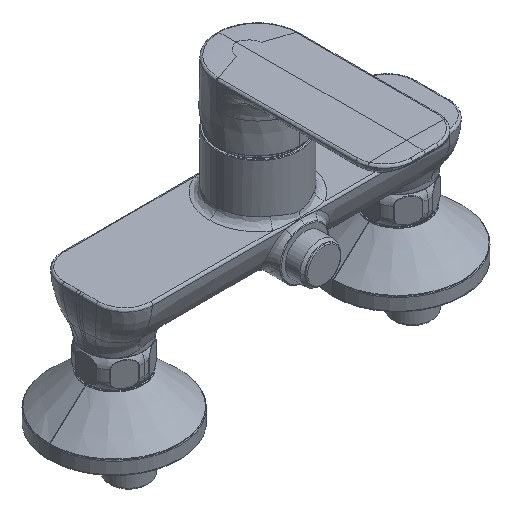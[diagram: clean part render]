
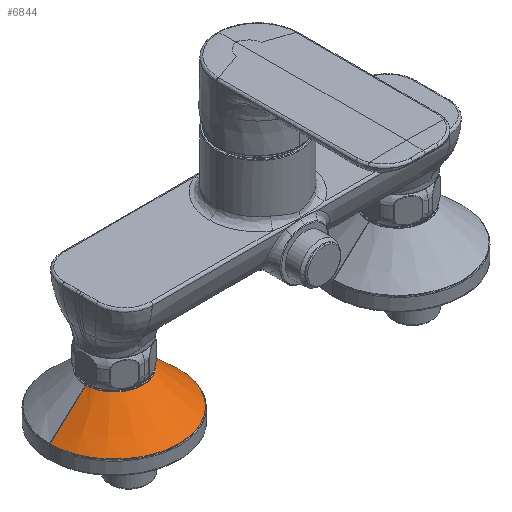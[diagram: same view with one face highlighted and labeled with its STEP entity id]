
A CAD part, isometric view. The second image highlights one B-rep face of the part: STEP entity #6844.
In plain terms, the highlighted conical face has half-angle 47.291 degrees and reference radius 34.178 mm.
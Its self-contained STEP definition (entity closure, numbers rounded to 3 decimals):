
#23 = EDGE_CURVE ( 'NONE', #31114, #35143, #13944, .T. ) ;
#769 = VECTOR ( 'NONE', #21898, 1000. ) ;
#834 = ORIENTED_EDGE ( 'NONE', *, *, #6353, .F. ) ;
#933 = DIRECTION ( 'NONE',  ( 0., -1., 0. ) ) ;
#1832 = EDGE_CURVE ( 'NONE', #14729, #32455, #12924, .T. ) ;
#2513 = CARTESIAN_POINT ( 'NONE',  ( -76.138, 0., -0.265 ) ) ;
#2773 = CIRCLE ( 'NONE', #35296, 34.178 ) ;
#3364 = CARTESIAN_POINT ( 'NONE',  ( -76.29, -34.178, -17.703 ) ) ;
#5470 = CARTESIAN_POINT ( 'NONE',  ( -76.138, 0., -17.703 ) ) ;
#5749 = DIRECTION ( 'NONE',  ( 0., 0., -1. ) ) ;
#5933 = CIRCLE ( 'NONE', #37859, 34.178 ) ;
#6311 = ORIENTED_EDGE ( 'NONE', *, *, #7968, .F. ) ;
#6353 = EDGE_CURVE ( 'NONE', #27243, #10196, #2773, .T. ) ;
#6529 = CONICAL_SURFACE ( 'NONE', #35939, 34.178, 0.825 ) ;
#6550 = EDGE_LOOP ( 'NONE', ( #27397, #14725, #33549, #13771, #6311, #834 ) ) ;
#6844 = ADVANCED_FACE ( 'NONE', ( #36112 ), #6529, .T. ) ;
#7667 = AXIS2_PLACEMENT_3D ( 'NONE', #9360, #9752, #933 ) ;
#7968 = EDGE_CURVE ( 'NONE', #10196, #32455, #5933, .T. ) ;
#9360 = CARTESIAN_POINT ( 'NONE',  ( -76.138, 0., -0.265 ) ) ;
#9477 = DIRECTION ( 'NONE',  ( 0.004, 1., 0. ) ) ;
#9752 = DIRECTION ( 'NONE',  ( 0., 0., -1. ) ) ;
#10157 = CARTESIAN_POINT ( 'NONE',  ( -110.316, 0., -17.703 ) ) ;
#10196 = VERTEX_POINT ( 'NONE', #3364 ) ;
#11383 = VECTOR ( 'NONE', #33163, 1000. ) ;
#11717 = DIRECTION ( 'NONE',  ( 0., 0., -1. ) ) ;
#11820 = CARTESIAN_POINT ( 'NONE',  ( -41.96, 0., -17.703 ) ) ;
#12223 = CARTESIAN_POINT ( 'NONE',  ( -76.138, 0., -17.703 ) ) ;
#12256 = AXIS2_PLACEMENT_3D ( 'NONE', #2513, #11717, #29161 ) ;
#12853 = CARTESIAN_POINT ( 'NONE',  ( -76.233, -15.287, -0.265 ) ) ;
#12924 = LINE ( 'NONE', #10157, #769 ) ;
#13771 = ORIENTED_EDGE ( 'NONE', *, *, #1832, .T. ) ;
#13944 = CIRCLE ( 'NONE', #7667, 15.287 ) ;
#14725 = ORIENTED_EDGE ( 'NONE', *, *, #23, .T. ) ;
#14729 = VERTEX_POINT ( 'NONE', #34044 ) ;
#14772 = DIRECTION ( 'NONE',  ( -1., 0., 0. ) ) ;
#17593 = DIRECTION ( 'NONE',  ( 0., 0., -1. ) ) ;
#17733 = EDGE_CURVE ( 'NONE', #35143, #14729, #24080, .T. ) ;
#18031 = CARTESIAN_POINT ( 'NONE',  ( -110.316, 0., -17.703 ) ) ;
#21898 = DIRECTION ( 'NONE',  ( -0.735, 0., -0.678 ) ) ;
#24080 = CIRCLE ( 'NONE', #12256, 15.287 ) ;
#24349 = DIRECTION ( 'NONE',  ( 0., 0., -1. ) ) ;
#25213 = CARTESIAN_POINT ( 'NONE',  ( -60.851, 0., -0.265 ) ) ;
#25742 = CARTESIAN_POINT ( 'NONE',  ( -41.96, 0., -17.703 ) ) ;
#27243 = VERTEX_POINT ( 'NONE', #25742 ) ;
#27300 = CARTESIAN_POINT ( 'NONE',  ( -76.138, 0., -17.703 ) ) ;
#27389 = EDGE_CURVE ( 'NONE', #31114, #27243, #29634, .T. ) ;
#27397 = ORIENTED_EDGE ( 'NONE', *, *, #27389, .F. ) ;
#29161 = DIRECTION ( 'NONE',  ( 0., -1., 0. ) ) ;
#29634 = LINE ( 'NONE', #11820, #11383 ) ;
#31114 = VERTEX_POINT ( 'NONE', #25213 ) ;
#32455 = VERTEX_POINT ( 'NONE', #18031 ) ;
#33163 = DIRECTION ( 'NONE',  ( 0.735, 0., -0.678 ) ) ;
#33549 = ORIENTED_EDGE ( 'NONE', *, *, #17733, .T. ) ;
#34044 = CARTESIAN_POINT ( 'NONE',  ( -91.425, 0., -0.265 ) ) ;
#35143 = VERTEX_POINT ( 'NONE', #12853 ) ;
#35296 = AXIS2_PLACEMENT_3D ( 'NONE', #5470, #17593, #38006 ) ;
#35939 = AXIS2_PLACEMENT_3D ( 'NONE', #12223, #5749, #14772 ) ;
#36112 = FACE_OUTER_BOUND ( 'NONE', #6550, .T. ) ;
#37859 = AXIS2_PLACEMENT_3D ( 'NONE', #27300, #24349, #9477 ) ;
#38006 = DIRECTION ( 'NONE',  ( 0.004, 1., 0. ) ) ;
